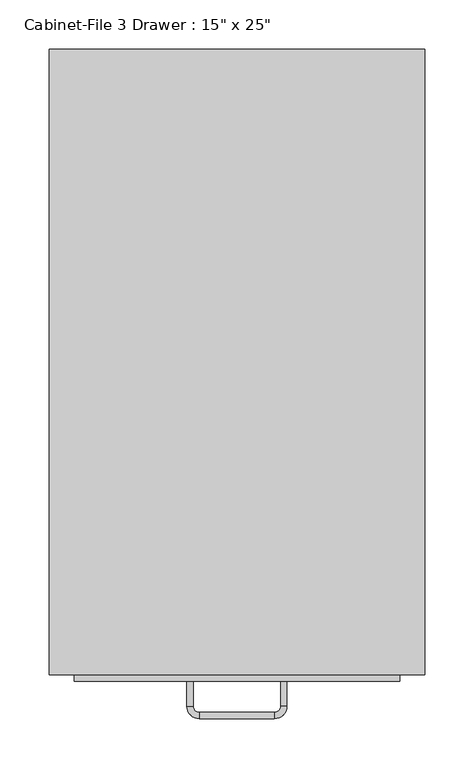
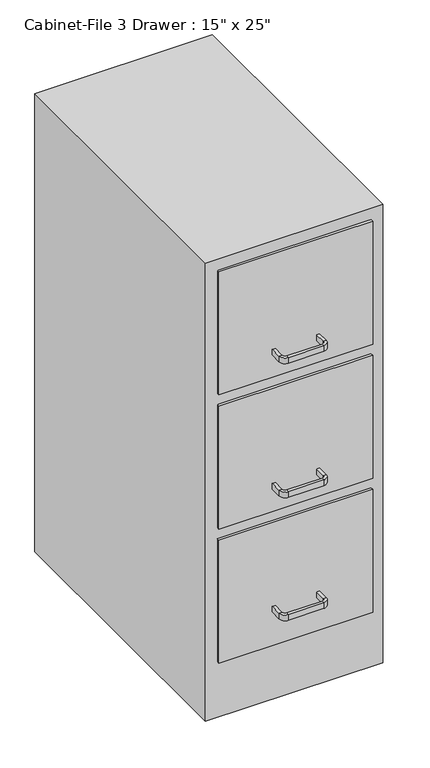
"""IFC4 building model written with IfcOpenShell, lengths in millimetres: furniture geometry."""

from ifc_helpers import new_model, si_unit, frame, origin, origin_with_axes, place, context, project, spatial, polyline, circle_curve, outline, extrude, source, transform, mapped, element, save
from ifc_brep_helpers import plane_surface, cylinder_surface, revolved_surface, advanced_brep


def furniture_d2095e5a(model_context):
    return source(origin(), model_context, "Body", "SolidModel", [
        extrude(outline(polyline([(62.603553, 175.3656999), (62.603553, -459.6343001), (-318.396447, -459.6343001), (-318.396447, 175.3656999), (62.603553, 175.3656999)])), origin_with_axes(), (0.0, 0.0, 1.0), 1041.4),
        extrude(outline(polyline([(37.203553, -465.9843001), (-292.996447, -465.9843001), (-292.996447, -459.6343001), (37.203553, -459.6343001), (37.203553, -465.9843001)])), frame((0.0, 0.0, 736.6), z_axis=(0.0, 0.0, 1.0), x_axis=(1.0, 0.0, 0.0)), (0.0, 0.0, 1.0), 279.4),
        extrude(outline(polyline([(37.203553, -465.9843001), (-292.996447, -465.9843001), (-292.996447, -459.6343001), (37.203553, -459.6343001), (37.203553, -465.9843001)])), frame((0.0, 0.0, 431.8), z_axis=(0.0, 0.0, 1.0), x_axis=(1.0, 0.0, 0.0)), (0.0, 0.0, 1.0), 279.4),
        extrude(outline(polyline([(37.203553, -465.9843001), (-292.996447, -465.9843001), (-292.996447, -459.6343001), (37.203553, -459.6343001), (37.203553, -465.9843001)])), frame((0.0, 0.0, 127.0), z_axis=(0.0, 0.0, 1.0), x_axis=(1.0, 0.0, 0.0)), (0.0, 0.0, 1.0), 279.4),
        advanced_brep(
        [(-172.346447, -465.9843001, 203.2), (-178.696447, -465.9843001, 203.2), (-178.696447, -465.9843001, 215.9), (-172.346447, -465.9843001, 215.9), (-172.346447, -491.3843001, 203.2), (-178.696447, -491.3843001, 203.2), (-178.696447, -491.3843001, 215.9), (-172.346447, -491.3843001, 215.9), (-165.996447, -504.0843001, 203.2), (-165.996447, -497.7343001, 203.2), (-165.996447, -504.0843001, 215.9), (-165.996447, -497.7343001, 215.9), (-89.796447, -497.7343001, 203.2), (-89.796447, -504.0843001, 203.2), (-89.796447, -504.0843001, 215.9), (-89.796447, -497.7343001, 215.9), (-77.096447, -491.3843001, 203.2), (-83.446447, -491.3843001, 203.2), (-77.096447, -491.3843001, 215.9), (-83.446447, -491.3843001, 215.9), (-83.446447, -465.9843001, 203.2), (-83.446447, -465.9843001, 215.9), (-77.096447, -465.9843001, 215.9), (-77.096447, -465.9843001, 203.2)],
        [
            (0, 1),
            (1, 2),
            (2, 3),
            (3, 0),
            (0, 4),
            (4, 5),
            (5, 1),
            (5, 6),
            (6, 2),
            (6, 7),
            (7, 3),
            (7, 4),
            (8, 5, circle_curve(frame((-165.996447, -491.3843001, 203.2), z_axis=(0.0, 0.0, -1.0), x_axis=(-1.0, 0.0, 0.0)), 12.7)),
            (4, 9, circle_curve(frame((-165.996447, -491.3843001, 203.2), z_axis=(0.0, 0.0, 1.0), x_axis=(-1.0, 0.0, 0.0)), 6.35)),
            (9, 8),
            (10, 6, circle_curve(frame((-165.996447, -491.3843001, 215.9), z_axis=(0.0, 0.0, -1.0), x_axis=(-1.0, 0.0, 0.0)), 12.7)),
            (8, 10),
            (11, 7, circle_curve(frame((-165.996447, -491.3843001, 215.9), z_axis=(0.0, 0.0, -1.0), x_axis=(-1.0, 0.0, 0.0)), 6.35)),
            (10, 11),
            (11, 9),
            (9, 12),
            (12, 13),
            (13, 8),
            (13, 14),
            (14, 10),
            (14, 15),
            (15, 11),
            (15, 12),
            (16, 13, circle_curve(frame((-89.796447, -491.3843001, 203.2), z_axis=(0.0, 0.0, -1.0), x_axis=(0.0, -1.0, 0.0)), 12.7)),
            (12, 17, circle_curve(frame((-89.796447, -491.3843001, 203.2), z_axis=(0.0, 0.0, 1.0), x_axis=(0.0, -1.0, 0.0)), 6.35)),
            (17, 16),
            (18, 14, circle_curve(frame((-89.796447, -491.3843001, 215.9), z_axis=(0.0, 0.0, -1.0), x_axis=(0.0, -1.0, 0.0)), 12.7)),
            (16, 18),
            (19, 15, circle_curve(frame((-89.796447, -491.3843001, 215.9), z_axis=(0.0, 0.0, -1.0), x_axis=(0.0, -1.0, 0.0)), 6.35)),
            (18, 19),
            (19, 17),
            (20, 21),
            (21, 22),
            (22, 23),
            (23, 20),
            (17, 20),
            (23, 16),
            (22, 18),
            (21, 19),
        ],
        [
            plane_surface(frame((-978.8216451, -465.9843001, 0.0), z_axis=(0.0, 1.0, 0.0), x_axis=(0.0, 0.0, -1.0))),
            plane_surface(frame((-172.346447, -465.9843001, 203.2), z_axis=(0.0, 0.0, -1.0), x_axis=(0.0, -1.0, 0.0))),
            plane_surface(frame((-178.696447, -465.9843001, 203.2), z_axis=(-1.0, 0.0, 0.0), x_axis=(0.0, -1.0, 0.0))),
            plane_surface(frame((-178.696447, -465.9843001, 215.9), z_axis=(0.0, 0.0, 1.0), x_axis=(0.0, -1.0, 0.0))),
            plane_surface(frame((-172.346447, -465.9843001, 215.9), z_axis=(1.0, 0.0, 0.0), x_axis=(0.0, -1.0, 0.0))),
            plane_surface(frame((-165.996447, -491.3843001, 203.2), z_axis=(0.0, 0.0, -1.0), x_axis=(-1.0, 0.0, 0.0))),
            cylinder_surface(frame((-165.996447, -491.3843001, 0.0), z_axis=(0.0, 0.0, 1.0), x_axis=(-1.0, 0.0, 0.0)), 12.7),
            plane_surface(frame((-165.996447, -491.3843001, 215.9), z_axis=(0.0, 0.0, 1.0), x_axis=(-1.0, 0.0, 0.0))),
            revolved_surface(polyline([(-172.34644699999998, -491.3843001, 215.9), (-172.34644699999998, -491.3843001, 203.2)]), (-165.996447, -491.3843001, 0.0), (0.0, 0.0, 1.0)),
            plane_surface(frame((-165.996447, -497.7343001, 203.2), z_axis=(0.0, 0.0, -1.0), x_axis=(1.0, 0.0, 0.0))),
            plane_surface(frame((-165.996447, -504.0843001, 203.2), z_axis=(0.0, -1.0, 0.0), x_axis=(1.0, 0.0, 0.0))),
            plane_surface(frame((-165.996447, -504.0843001, 215.9), z_axis=(0.0, 0.0, 1.0), x_axis=(1.0, 0.0, 0.0))),
            plane_surface(frame((-165.996447, -497.7343001, 215.9), z_axis=(0.0, 1.0, 0.0), x_axis=(1.0, 0.0, 0.0))),
            plane_surface(frame((-89.796447, -491.3843001, 203.2), z_axis=(0.0, 0.0, -1.0), x_axis=(0.0, -1.0, 0.0))),
            cylinder_surface(frame((-89.796447, -491.3843001, 0.0), z_axis=(0.0, 0.0, 1.0), x_axis=(0.0, -1.0, 0.0)), 12.7),
            plane_surface(frame((-89.796447, -491.3843001, 215.9), z_axis=(0.0, 0.0, 1.0), x_axis=(0.0, -1.0, 0.0))),
            revolved_surface(polyline([(-89.796447, -497.73430010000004, 215.9), (-89.796447, -497.73430010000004, 203.2)]), (-89.796447, -491.3843001, 0.0), (0.0, 0.0, 1.0)),
            plane_surface(frame((-877.2216451, -465.9843001, 0.0), z_axis=(0.0, 1.0, 0.0), x_axis=(0.0, 0.0, 1.0))),
            plane_surface(frame((-83.446447, -491.3843001, 203.2), z_axis=(0.0, 0.0, -1.0), x_axis=(0.0, 1.0, 0.0))),
            plane_surface(frame((-77.096447, -491.3843001, 203.2), z_axis=(1.0, 0.0, 0.0), x_axis=(0.0, 1.0, 0.0))),
            plane_surface(frame((-77.096447, -491.3843001, 215.9), z_axis=(0.0, 0.0, 1.0), x_axis=(0.0, 1.0, 0.0))),
            plane_surface(frame((-83.446447, -491.3843001, 215.9), z_axis=(-1.0, 0.0, 0.0), x_axis=(0.0, 1.0, 0.0))),
        ],
        [
            (0, [[1, 2, 3, 4]]),
            (1, [[-1, 5, 6, 7]]),
            (2, [[-2, -7, 8, 9]]),
            (3, [[-3, -9, 10, 11]]),
            (4, [[-4, -11, 12, -5]]),
            (5, [[13, -6, 14, 15]]),
            (6, [[16, -8, -13, 17]]),
            (7, [[18, -10, -16, 19]]),
            (8, [[-14, -12, -18, 20]]),
            (9, [[-15, 21, 22, 23]]),
            (10, [[-17, -23, 24, 25]]),
            (11, [[-19, -25, 26, 27]]),
            (12, [[-20, -27, 28, -21]]),
            (13, [[29, -22, 30, 31]]),
            (14, [[32, -24, -29, 33]]),
            (15, [[34, -26, -32, 35]]),
            (16, [[-30, -28, -34, 36]]),
            (17, [[37, 38, 39, 40]]),
            (18, [[-31, 41, -40, 42]]),
            (19, [[-33, -42, -39, 43]]),
            (20, [[-35, -43, -38, 44]]),
            (21, [[-36, -44, -37, -41]]),
        ],
    ),
        advanced_brep(
        [(-172.346447, -465.9843001, 482.6), (-178.696447, -465.9843001, 482.6), (-178.696447, -465.9843001, 495.3), (-172.346447, -465.9843001, 495.3), (-172.346447, -491.3843001, 482.6), (-178.696447, -491.3843001, 482.6), (-178.696447, -491.3843001, 495.3), (-172.346447, -491.3843001, 495.3), (-165.996447, -504.0843001, 482.6), (-165.996447, -497.7343001, 482.6), (-165.996447, -504.0843001, 495.3), (-165.996447, -497.7343001, 495.3), (-89.796447, -497.7343001, 482.6), (-89.796447, -504.0843001, 482.6), (-89.796447, -504.0843001, 495.3), (-89.796447, -497.7343001, 495.3), (-77.096447, -491.3843001, 482.6), (-83.446447, -491.3843001, 482.6), (-77.096447, -491.3843001, 495.3), (-83.446447, -491.3843001, 495.3), (-83.446447, -465.9843001, 482.6), (-83.446447, -465.9843001, 495.3), (-77.096447, -465.9843001, 495.3), (-77.096447, -465.9843001, 482.6)],
        [
            (0, 1),
            (1, 2),
            (2, 3),
            (3, 0),
            (0, 4),
            (4, 5),
            (5, 1),
            (5, 6),
            (6, 2),
            (6, 7),
            (7, 3),
            (7, 4),
            (8, 5, circle_curve(frame((-165.996447, -491.3843001, 482.6), z_axis=(0.0, 0.0, -1.0), x_axis=(-1.0, 0.0, 0.0)), 12.7)),
            (4, 9, circle_curve(frame((-165.996447, -491.3843001, 482.6), z_axis=(0.0, 0.0, 1.0), x_axis=(-1.0, 0.0, 0.0)), 6.35)),
            (9, 8),
            (10, 6, circle_curve(frame((-165.996447, -491.3843001, 495.3), z_axis=(0.0, 0.0, -1.0), x_axis=(-1.0, 0.0, 0.0)), 12.7)),
            (8, 10),
            (11, 7, circle_curve(frame((-165.996447, -491.3843001, 495.3), z_axis=(0.0, 0.0, -1.0), x_axis=(-1.0, 0.0, 0.0)), 6.35)),
            (10, 11),
            (11, 9),
            (9, 12),
            (12, 13),
            (13, 8),
            (13, 14),
            (14, 10),
            (14, 15),
            (15, 11),
            (15, 12),
            (16, 13, circle_curve(frame((-89.796447, -491.3843001, 482.6), z_axis=(0.0, 0.0, -1.0), x_axis=(0.0, -1.0, 0.0)), 12.7)),
            (12, 17, circle_curve(frame((-89.796447, -491.3843001, 482.6), z_axis=(0.0, 0.0, 1.0), x_axis=(0.0, -1.0, 0.0)), 6.35)),
            (17, 16),
            (18, 14, circle_curve(frame((-89.796447, -491.3843001, 495.3), z_axis=(0.0, 0.0, -1.0), x_axis=(0.0, -1.0, 0.0)), 12.7)),
            (16, 18),
            (19, 15, circle_curve(frame((-89.796447, -491.3843001, 495.3), z_axis=(0.0, 0.0, -1.0), x_axis=(0.0, -1.0, 0.0)), 6.35)),
            (18, 19),
            (19, 17),
            (20, 21),
            (21, 22),
            (22, 23),
            (23, 20),
            (17, 20),
            (23, 16),
            (22, 18),
            (21, 19),
        ],
        [
            plane_surface(frame((-978.8216451, -465.9843001, 0.0), z_axis=(0.0, 1.0, 0.0), x_axis=(0.0, 0.0, -1.0))),
            plane_surface(frame((-172.346447, -465.9843001, 482.6), z_axis=(0.0, 0.0, -1.0), x_axis=(0.0, -1.0, 0.0))),
            plane_surface(frame((-178.696447, -465.9843001, 482.6), z_axis=(-1.0, 0.0, 0.0), x_axis=(0.0, -1.0, 0.0))),
            plane_surface(frame((-178.696447, -465.9843001, 495.3), z_axis=(0.0, 0.0, 1.0), x_axis=(0.0, -1.0, 0.0))),
            plane_surface(frame((-172.346447, -465.9843001, 495.3), z_axis=(1.0, 0.0, 0.0), x_axis=(0.0, -1.0, 0.0))),
            plane_surface(frame((-165.996447, -491.3843001, 482.6), z_axis=(0.0, 0.0, -1.0), x_axis=(-1.0, 0.0, 0.0))),
            cylinder_surface(frame((-165.996447, -491.3843001, 0.0), z_axis=(0.0, 0.0, 1.0), x_axis=(-1.0, 0.0, 0.0)), 12.7),
            plane_surface(frame((-165.996447, -491.3843001, 495.3), z_axis=(0.0, 0.0, 1.0), x_axis=(-1.0, 0.0, 0.0))),
            revolved_surface(polyline([(-172.34644699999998, -491.3843001, 495.3), (-172.34644699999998, -491.3843001, 482.6)]), (-165.996447, -491.3843001, 0.0), (0.0, 0.0, 1.0)),
            plane_surface(frame((-165.996447, -497.7343001, 482.6), z_axis=(0.0, 0.0, -1.0), x_axis=(1.0, 0.0, 0.0))),
            plane_surface(frame((-165.996447, -504.0843001, 482.6), z_axis=(0.0, -1.0, 0.0), x_axis=(1.0, 0.0, 0.0))),
            plane_surface(frame((-165.996447, -504.0843001, 495.3), z_axis=(0.0, 0.0, 1.0), x_axis=(1.0, 0.0, 0.0))),
            plane_surface(frame((-165.996447, -497.7343001, 495.3), z_axis=(0.0, 1.0, 0.0), x_axis=(1.0, 0.0, 0.0))),
            plane_surface(frame((-89.796447, -491.3843001, 482.6), z_axis=(0.0, 0.0, -1.0), x_axis=(0.0, -1.0, 0.0))),
            cylinder_surface(frame((-89.796447, -491.3843001, 0.0), z_axis=(0.0, 0.0, 1.0), x_axis=(0.0, -1.0, 0.0)), 12.7),
            plane_surface(frame((-89.796447, -491.3843001, 495.3), z_axis=(0.0, 0.0, 1.0), x_axis=(0.0, -1.0, 0.0))),
            revolved_surface(polyline([(-89.796447, -497.73430010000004, 495.3), (-89.796447, -497.73430010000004, 482.6)]), (-89.796447, -491.3843001, 0.0), (0.0, 0.0, 1.0)),
            plane_surface(frame((-877.2216451, -465.9843001, 0.0), z_axis=(0.0, 1.0, 0.0), x_axis=(0.0, 0.0, 1.0))),
            plane_surface(frame((-83.446447, -491.3843001, 482.6), z_axis=(0.0, 0.0, -1.0), x_axis=(0.0, 1.0, 0.0))),
            plane_surface(frame((-77.096447, -491.3843001, 482.6), z_axis=(1.0, 0.0, 0.0), x_axis=(0.0, 1.0, 0.0))),
            plane_surface(frame((-77.096447, -491.3843001, 495.3), z_axis=(0.0, 0.0, 1.0), x_axis=(0.0, 1.0, 0.0))),
            plane_surface(frame((-83.446447, -491.3843001, 495.3), z_axis=(-1.0, 0.0, 0.0), x_axis=(0.0, 1.0, 0.0))),
        ],
        [
            (0, [[1, 2, 3, 4]]),
            (1, [[-1, 5, 6, 7]]),
            (2, [[-2, -7, 8, 9]]),
            (3, [[-3, -9, 10, 11]]),
            (4, [[-4, -11, 12, -5]]),
            (5, [[13, -6, 14, 15]]),
            (6, [[16, -8, -13, 17]]),
            (7, [[18, -10, -16, 19]]),
            (8, [[-14, -12, -18, 20]]),
            (9, [[-15, 21, 22, 23]]),
            (10, [[-17, -23, 24, 25]]),
            (11, [[-19, -25, 26, 27]]),
            (12, [[-20, -27, 28, -21]]),
            (13, [[29, -22, 30, 31]]),
            (14, [[32, -24, -29, 33]]),
            (15, [[34, -26, -32, 35]]),
            (16, [[-30, -28, -34, 36]]),
            (17, [[37, 38, 39, 40]]),
            (18, [[-31, 41, -40, 42]]),
            (19, [[-33, -42, -39, 43]]),
            (20, [[-35, -43, -38, 44]]),
            (21, [[-36, -44, -37, -41]]),
        ],
    ),
        advanced_brep(
        [(-172.346447, -465.9843001, 787.4), (-178.696447, -465.9843001, 787.4), (-178.696447, -465.9843001, 800.1), (-172.346447, -465.9843001, 800.1), (-172.346447, -491.3843001, 787.4), (-178.696447, -491.3843001, 787.4), (-178.696447, -491.3843001, 800.1), (-172.346447, -491.3843001, 800.1), (-165.996447, -504.0843001, 787.4), (-165.996447, -497.7343001, 787.4), (-165.996447, -504.0843001, 800.1), (-165.996447, -497.7343001, 800.1), (-89.796447, -497.7343001, 787.4), (-89.796447, -504.0843001, 787.4), (-89.796447, -504.0843001, 800.1), (-89.796447, -497.7343001, 800.1), (-77.096447, -491.3843001, 787.4), (-83.446447, -491.3843001, 787.4), (-77.096447, -491.3843001, 800.1), (-83.446447, -491.3843001, 800.1), (-83.446447, -465.9843001, 787.4), (-83.446447, -465.9843001, 800.1), (-77.096447, -465.9843001, 800.1), (-77.096447, -465.9843001, 787.4)],
        [
            (0, 1),
            (1, 2),
            (2, 3),
            (3, 0),
            (0, 4),
            (4, 5),
            (5, 1),
            (5, 6),
            (6, 2),
            (6, 7),
            (7, 3),
            (7, 4),
            (8, 5, circle_curve(frame((-165.996447, -491.3843001, 787.4), z_axis=(0.0, 0.0, -1.0), x_axis=(-1.0, 0.0, 0.0)), 12.7)),
            (4, 9, circle_curve(frame((-165.996447, -491.3843001, 787.4), z_axis=(0.0, 0.0, 1.0), x_axis=(-1.0, 0.0, 0.0)), 6.35)),
            (9, 8),
            (10, 6, circle_curve(frame((-165.996447, -491.3843001, 800.1), z_axis=(0.0, 0.0, -1.0), x_axis=(-1.0, 0.0, 0.0)), 12.7)),
            (8, 10),
            (11, 7, circle_curve(frame((-165.996447, -491.3843001, 800.1), z_axis=(0.0, 0.0, -1.0), x_axis=(-1.0, 0.0, 0.0)), 6.35)),
            (10, 11),
            (11, 9),
            (9, 12),
            (12, 13),
            (13, 8),
            (13, 14),
            (14, 10),
            (14, 15),
            (15, 11),
            (15, 12),
            (16, 13, circle_curve(frame((-89.796447, -491.3843001, 787.4), z_axis=(0.0, 0.0, -1.0), x_axis=(0.0, -1.0, 0.0)), 12.7)),
            (12, 17, circle_curve(frame((-89.796447, -491.3843001, 787.4), z_axis=(0.0, 0.0, 1.0), x_axis=(0.0, -1.0, 0.0)), 6.35)),
            (17, 16),
            (18, 14, circle_curve(frame((-89.796447, -491.3843001, 800.1), z_axis=(0.0, 0.0, -1.0), x_axis=(0.0, -1.0, 0.0)), 12.7)),
            (16, 18),
            (19, 15, circle_curve(frame((-89.796447, -491.3843001, 800.1), z_axis=(0.0, 0.0, -1.0), x_axis=(0.0, -1.0, 0.0)), 6.35)),
            (18, 19),
            (19, 17),
            (20, 21),
            (21, 22),
            (22, 23),
            (23, 20),
            (17, 20),
            (23, 16),
            (22, 18),
            (21, 19),
        ],
        [
            plane_surface(frame((-978.8216451, -465.9843001, 0.0), z_axis=(0.0, 1.0, 0.0), x_axis=(0.0, 0.0, -1.0))),
            plane_surface(frame((-172.346447, -465.9843001, 787.4), z_axis=(0.0, 0.0, -1.0), x_axis=(0.0, -1.0, 0.0))),
            plane_surface(frame((-178.696447, -465.9843001, 787.4), z_axis=(-1.0, 0.0, 0.0), x_axis=(0.0, -1.0, 0.0))),
            plane_surface(frame((-178.696447, -465.9843001, 800.1), z_axis=(0.0, 0.0, 1.0), x_axis=(0.0, -1.0, 0.0))),
            plane_surface(frame((-172.346447, -465.9843001, 800.1), z_axis=(1.0, 0.0, 0.0), x_axis=(0.0, -1.0, 0.0))),
            plane_surface(frame((-165.996447, -491.3843001, 787.4), z_axis=(0.0, 0.0, -1.0), x_axis=(-1.0, 0.0, 0.0))),
            cylinder_surface(frame((-165.996447, -491.3843001, 0.0), z_axis=(0.0, 0.0, 1.0), x_axis=(-1.0, 0.0, 0.0)), 12.7),
            plane_surface(frame((-165.996447, -491.3843001, 800.1), z_axis=(0.0, 0.0, 1.0), x_axis=(-1.0, 0.0, 0.0))),
            revolved_surface(polyline([(-172.34644699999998, -491.3843001, 800.1), (-172.34644699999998, -491.3843001, 787.4)]), (-165.996447, -491.3843001, 0.0), (0.0, 0.0, 1.0)),
            plane_surface(frame((-165.996447, -497.7343001, 787.4), z_axis=(0.0, 0.0, -1.0), x_axis=(1.0, 0.0, 0.0))),
            plane_surface(frame((-165.996447, -504.0843001, 787.4), z_axis=(0.0, -1.0, 0.0), x_axis=(1.0, 0.0, 0.0))),
            plane_surface(frame((-165.996447, -504.0843001, 800.1), z_axis=(0.0, 0.0, 1.0), x_axis=(1.0, 0.0, 0.0))),
            plane_surface(frame((-165.996447, -497.7343001, 800.1), z_axis=(0.0, 1.0, 0.0), x_axis=(1.0, 0.0, 0.0))),
            plane_surface(frame((-89.796447, -491.3843001, 787.4), z_axis=(0.0, 0.0, -1.0), x_axis=(0.0, -1.0, 0.0))),
            cylinder_surface(frame((-89.796447, -491.3843001, 0.0), z_axis=(0.0, 0.0, 1.0), x_axis=(0.0, -1.0, 0.0)), 12.7),
            plane_surface(frame((-89.796447, -491.3843001, 800.1), z_axis=(0.0, 0.0, 1.0), x_axis=(0.0, -1.0, 0.0))),
            revolved_surface(polyline([(-89.796447, -497.73430010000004, 800.1), (-89.796447, -497.73430010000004, 787.4)]), (-89.796447, -491.3843001, 0.0), (0.0, 0.0, 1.0)),
            plane_surface(frame((-877.2216451, -465.9843001, 0.0), z_axis=(0.0, 1.0, 0.0), x_axis=(0.0, 0.0, 1.0))),
            plane_surface(frame((-83.446447, -491.3843001, 787.4), z_axis=(0.0, 0.0, -1.0), x_axis=(0.0, 1.0, 0.0))),
            plane_surface(frame((-77.096447, -491.3843001, 787.4), z_axis=(1.0, 0.0, 0.0), x_axis=(0.0, 1.0, 0.0))),
            plane_surface(frame((-77.096447, -491.3843001, 800.1), z_axis=(0.0, 0.0, 1.0), x_axis=(0.0, 1.0, 0.0))),
            plane_surface(frame((-83.446447, -491.3843001, 800.1), z_axis=(-1.0, 0.0, 0.0), x_axis=(0.0, 1.0, 0.0))),
        ],
        [
            (0, [[1, 2, 3, 4]]),
            (1, [[-1, 5, 6, 7]]),
            (2, [[-2, -7, 8, 9]]),
            (3, [[-3, -9, 10, 11]]),
            (4, [[-4, -11, 12, -5]]),
            (5, [[13, -6, 14, 15]]),
            (6, [[16, -8, -13, 17]]),
            (7, [[18, -10, -16, 19]]),
            (8, [[-14, -12, -18, 20]]),
            (9, [[-15, 21, 22, 23]]),
            (10, [[-17, -23, 24, 25]]),
            (11, [[-19, -25, 26, 27]]),
            (12, [[-20, -27, 28, -21]]),
            (13, [[29, -22, 30, 31]]),
            (14, [[32, -24, -29, 33]]),
            (15, [[34, -26, -32, 35]]),
            (16, [[-30, -28, -34, 36]]),
            (17, [[37, 38, 39, 40]]),
            (18, [[-31, 41, -40, 42]]),
            (19, [[-33, -42, -39, 43]]),
            (20, [[-35, -43, -38, 44]]),
            (21, [[-36, -44, -37, -41]]),
        ],
    ),
    ])


if __name__ == "__main__":
    model = new_model("IFC4")
    model_context = context("Model", 3, world=origin())
    ifc_project = project(units=[si_unit("LENGTHUNIT", "METRE", prefix="MILLI")], contexts=[model_context])
    site = spatial("IfcSite", under=ifc_project)
    building = spatial("IfcBuilding", under=site)
    placement = place(None, origin())
    furniture_shape = furniture_d2095e5a(model_context)
    element("IfcFurniture", 1, ObjectType="Cabinet-File 3 Drawer : 15\" x 25\"", at=placement, inside=building, context=model_context, shape_type="MappedRepresentation", body=[
        mapped(furniture_shape, transform((0.0, 0.0, 0.0), x_axis=(1.0, 0.0, 0.0), y_axis=(0.0, 1.0, 0.0), z_axis=(0.0, 0.0, 1.0))),
    ])
    save(model, "model.ifc")
